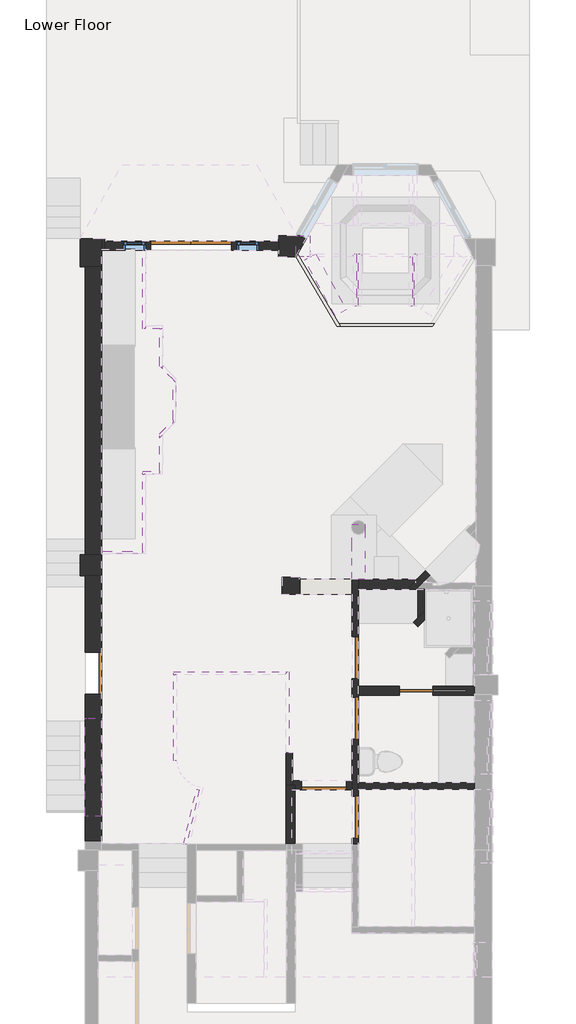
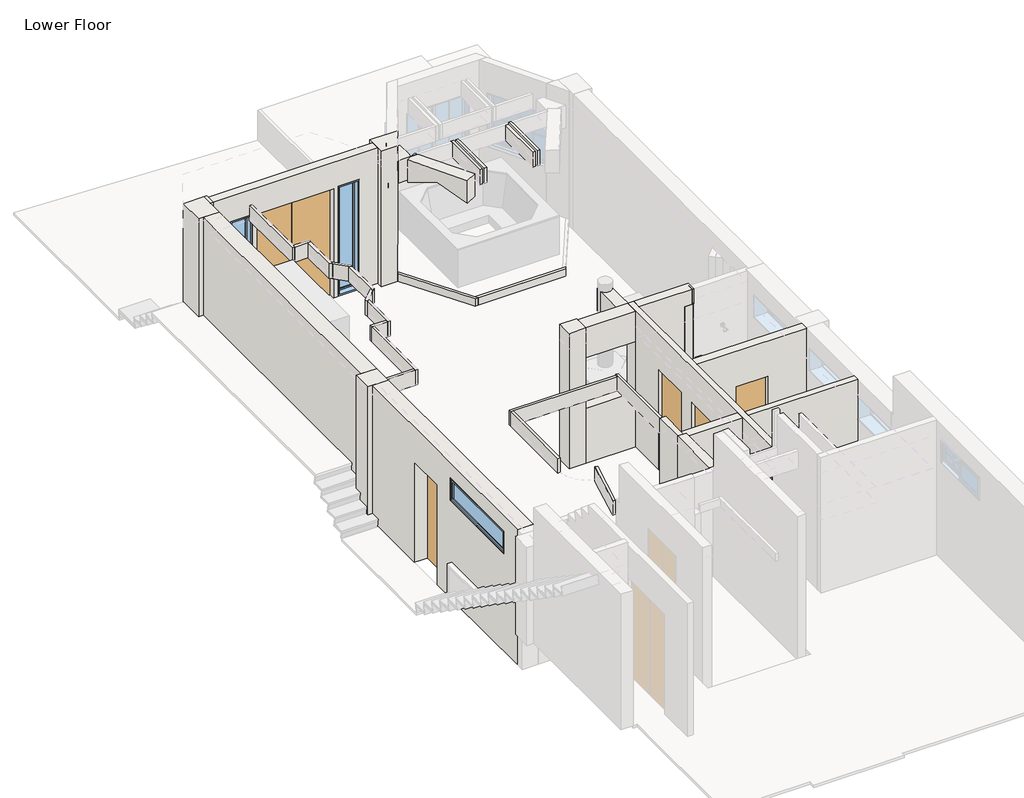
# One storey, part 2 of 4: 43 walls, 7 doors, 3 windows.
"""IFC4 building model written with IfcOpenShell, lengths in millimetres."""

from ifc_helpers import new_model, si_unit, point, frame, frame_2d, origin, place, context, project, spatial, polyline, circle_curve, trimmed, segment, composite_curve, outline, extrude, faceted_brep, transform, mapped, element, save
from ifc_brep_helpers import plane_surface, revolved_surface, advanced_brep
from components import door_e9feb998, door_aa45f35f, door_f61abd0f, door_85798bfe, door_2963ea5e, door_bacc9d13, default_1_3eb0f4f5, default_1_2c6ce71a

model = new_model("IFC4")

# Units and contexts
model_context = context("Model", 3, world=origin())
ifc_project = project(units=[si_unit("LENGTHUNIT", "METRE", prefix="MILLI")], contexts=[model_context])

# Site, building, storey
site = spatial("IfcSite", under=ifc_project)
building = spatial("IfcBuilding", under=site)
storey = spatial("IfcBuildingStorey", under=building, Name="Lower Floor", Elevation=-2743.2)

# Doors
placement = place(None, origin())
door_shape = door_e9feb998(model_context)
element("IfcDoor", 1, ObjectType="Planitar - Single Pocket Door : 2'-0\" x 6'-8\"", at=placement, inside=storey, context=model_context, shape_type="MappedRepresentation", body=[
    mapped(door_shape, transform((-101.6, 6419.85, -2743.2), x_axis=(1.0, 0.0, 0.0), y_axis=(0.0, 1.0, 0.0), z_axis=(0.0, 0.0, 1.0))),
])
door_2_shape = door_aa45f35f(model_context)
element("IfcDoor", 2, ObjectType="Planitar - Single Door_Flush Panel : 2'-6\" x 6'-8\"", at=placement, inside=storey, context=model_context, shape_type="MappedRepresentation", body=[
    mapped(door_2_shape, transform((-1206.5, 7021.5125, -2743.2), x_axis=(0.0, -1.0, 0.0), y_axis=(1.0, 0.0, 0.0), z_axis=(0.0, 0.0, 1.0))),
])
door_3_shape = door_f61abd0f(model_context)
element("IfcDoor", 3, ObjectType="Planitar - Single Door_Flush Panel : 2'-6\" x 6'-8\"", at=placement, inside=storey, context=model_context, shape_type="MappedRepresentation", body=[
    mapped(door_3_shape, transform((-1206.5, 5924.55, -2743.2), x_axis=(0.0, 1.0, 0.0), y_axis=(-1.0, 0.0, 0.0), z_axis=(0.0, 0.0, 1.0))),
])
element("IfcDoor", 4, ObjectType="Planitar - Single Door_Flush Panel : 2'-6\" x 6'-8\"", at=placement, inside=storey, context=model_context, shape_type="MappedRepresentation", body=[
    mapped(door_3_shape, transform((-1206.5, 4129.88125, -2743.2), x_axis=(0.0, 1.0, 0.0), y_axis=(-1.0, 0.0, 0.0), z_axis=(0.0, 0.0, 1.0))),
])
door_4_shape = door_85798bfe(model_context)
element("IfcDoor", 5, ObjectType="Planitar - Single Door_Flush Panel : 2'-6\" x 6'-8\"", at=placement, inside=storey, context=model_context, shape_type="MappedRepresentation", body=[
    mapped(door_4_shape, transform((-5962.65, 6735.7625, -2743.2), x_axis=(0.0, 1.0, 0.0), y_axis=(-1.0, 0.0, 0.0), z_axis=(0.0, 0.0, 1.0))),
])
door_5_shape = door_2963ea5e(model_context)
element("IfcDoor", 6, ObjectType="Planitar - Single Door_Flush Panel : 2'-8\" x 6'-8\"", at=placement, inside=storey, context=model_context, shape_type="MappedRepresentation", body=[
    mapped(door_5_shape, transform((-1777.20625, 4705.35, -2743.2), x_axis=(-1.0, 0.0, 0.0), y_axis=(0.0, -1.0, 0.0), z_axis=(0.0, 0.0, 1.0))),
])
door_6_shape = door_bacc9d13(model_context)
element("IfcDoor", 7, ObjectType="Planitar - Double Door_Flush Panel : 4'-10\" x 6'-8\"", at=placement, inside=storey, context=model_context, shape_type="MappedRepresentation", body=[
    mapped(door_6_shape, transform((-4187.6265625, 14490.7, -2743.2), x_axis=(1.0, 0.0, 0.0), y_axis=(0.0, 1.0, 0.0), z_axis=(0.0, 0.0, 1.0))),
])

# Walls
element("IfcWall", 8, ObjectType="Planitar - Generic 1' - 0\"", at=placement, inside=storey, context=model_context, shape_type="SweptSolid", body=[
    extrude(outline(polyline([(-6115.05, 8890.0), (-6115.05, 14116.05), (-5810.25, 14116.05), (-5810.25, 8890.0), (-6115.05, 8890.0)])), frame((0.0, 0.0, -2743.2), z_axis=(0.0, 0.0, 1.0), x_axis=(1.0, 0.0, 0.0)), (0.0, 0.0, 1.0), 2743.2),
])
element("IfcWall", 9, ObjectType="Planitar - Generic 1' - 3 1/2\"", at=placement, inside=storey, context=model_context, shape_type="Brep", body=[
    faceted_brep([(-5810.25, 14116.05, -2743.2), (-5810.25, 14408.15, -2743.2), (-5810.25, 14624.05, -2743.2), (-5810.25, 14624.05, 0.0), (-5810.25, 14408.15, 0.0), (-5810.25, 14116.05, 0.0), (-6203.95, 14116.05, -2743.2), (-6203.95, 14116.05, 0.0), (-6203.95, 14624.05, 0.0), (-6203.95, 14624.05, -2743.2), (-6115.05, 14116.05, -2743.2), (-6115.05, 14116.05, 0.0)], [[[0, 1, 2, 3, 4, 5]], [[6, 7, 8, 9]], [[2, 1, 0, 10, 6, 9]], [[5, 4, 3, 8, 7, 11]], [[0, 5, 11, 7, 6, 10]], [[3, 2, 9, 8]]]),
])
element("IfcWall", 10, ObjectType="Planitar - Generic 8 1/2\"", at=placement, inside=storey, context=model_context, shape_type="Brep", body=[
    faceted_brep([(-5810.25, 14408.15, -2743.2), (-5753.1, 14408.15, -2743.2), (-5753.1, 14408.15, 0.0), (-5810.25, 14408.15, 0.0), (-5810.25, 14624.05, -2743.2), (-5810.25, 14624.05, 0.0), (-5753.1, 14624.05, 0.0), (-5753.1, 14624.05, -2743.2), (-5753.1, 14573.25, -2743.2), (-5753.1, 14573.25, 0.0)], [[[0, 1, 2, 3]], [[4, 5, 6, 7]], [[1, 0, 4, 7, 8]], [[2, 1, 8, 7, 6, 9]], [[3, 2, 9, 6, 5]], [[0, 3, 5, 4]]]),
])
element("IfcWall", 11, ObjectType="Planitar - Generic 6 1/2\"", at=placement, inside=storey, context=model_context, shape_type="SweptSolid", body=[
    extrude(outline(polyline([(-2743.2, -2603.5), (0.0, -2603.5), (0.0, -5753.1), (-2743.2, -5753.1), (-2743.2, -5419.328125), (-508.0, -5419.328125), (-508.0, -5012.928125), (-2743.2, -5012.928125), (-2743.2, -4924.2265625), (-533.4, -4924.2265625), (-533.4, -3451.0265625), (-2743.2, -3451.0265625), (-2743.2, -3362.325), (-508.0, -3362.325), (-508.0, -2955.925), (-2743.2, -2955.925), (-2743.2, -2603.5)])), frame((0.0, 14408.15, 0.0), z_axis=(0.0, 1.0, 0.0), x_axis=(0.0, 0.0, 1.0)), (0.0, 0.0, 1.0), 165.1),
])
element("IfcWall", 12, ObjectType="Planitar - Generic 1' - 3\"", at=placement, inside=storey, context=model_context, shape_type="Brep", body=[
    faceted_brep([(-2603.5, 14293.85, -2743.2), (-2287.9319, 14293.85, -2743.2), (-2287.9319, 14293.85, -762.0), (-2281.3741204, 14293.85, -762.0), (-2281.3741204, 14293.85, -304.8), (-2287.9319, 14293.85, -304.8), (-2287.9319, 14293.85, 0.0), (-2603.5, 14293.85, 0.0), (-2069.9799429, 14674.85, -2743.2), (-2274.8163408, 14674.85, -2743.2), (-2603.5, 14674.85, -2743.2), (-2603.5, 14674.85, 0.0), (-2274.8163408, 14674.85, 0.0), (-2069.9799429, 14674.85, 0.0), (-2069.9799429, 14674.85, -304.8), (-2281.3741204, 14674.85, -304.8), (-2281.3741204, 14674.85, -762.0), (-2208.9758677, 14674.85, -762.0), (-2208.9758677, 14674.85, -1701.8), (-2069.9799429, 14674.85, -1701.8), (-2603.5, 14408.15, -2743.2), (-2603.5, 14573.25, -2743.2), (-2258.9508339, 14344.5115602, -2743.2), (-2603.5, 14573.25, 0.0), (-2603.5, 14408.15, 0.0), (-2104.2506382, 14614.9416831, -1701.8), (-2104.2506382, 14614.9416831, -762.0), (-2281.3741204, 14305.3135999, -762.0), (-2281.3741204, 14305.3135999, -304.8)], [[[0, 1, 2, 3, 4, 5, 6, 7]], [[8, 9, 10, 11, 12, 13, 14, 15, 16, 17, 18, 19]], [[1, 0, 20, 21, 10, 9, 8, 22]], [[7, 6, 13, 12, 11, 23, 24]], [[0, 7, 24, 23, 11, 10, 21, 20]], [[18, 25, 19]], [[25, 18, 17, 26]], [[16, 27, 26, 17]], [[27, 16, 15, 28, 4, 3]], [[28, 15, 14]], [[2, 1, 22, 8, 19, 25, 26, 27]], [[6, 5, 28, 14, 13]], [[3, 2, 27]], [[5, 4, 28]]]),
])
element("IfcWall", 13, ObjectType="Planitar - Generic 4 1/2\"", at=placement, inside=storey, context=model_context, shape_type="SweptSolid", body=[
    extrude(outline(polyline([(952.5, 4635.5), (-1149.35, 4635.5), (-1149.35, 4749.8), (952.5, 4749.8), (952.5, 4635.5)])), frame((0.0, 0.0, -2743.2), z_axis=(0.0, 0.0, 1.0), x_axis=(1.0, 0.0, 0.0)), (0.0, 0.0, 1.0), 2743.2),
])
element("IfcWall", 14, ObjectType="Planitar - Generic 4 1/2\"", at=placement, inside=storey, context=model_context, shape_type="Brep", body=[
    faceted_brep([(-2463.8, 5295.9, -2743.2), (-2463.8, 4705.35, -2743.2), (-2463.8, 4705.35, 0.0), (-2463.8, 5295.9, 0.0), (-2463.8, 5295.9, -304.8), (-2349.5, 5295.9, -2743.2), (-2349.5, 5295.9, 0.0), (-2349.5, 4787.9, 0.0), (-2349.5, 4705.35, 0.0), (-2349.5, 4705.35, -2743.2), (-2349.5, 4787.9, -2743.2), (-2413.0, 5295.9, 0.0)], [[[0, 1, 2, 3, 4]], [[5, 6, 7, 8, 9, 10]], [[1, 0, 5, 10, 9]], [[2, 1, 9, 8]], [[3, 2, 8, 7, 6, 11]], [[0, 4, 3, 11, 6, 5]]]),
])
element("IfcWall", 15, ObjectType="Planitar - Generic 6 1/2\"", at=placement, inside=storey, context=model_context, shape_type="Brep", body=[
    faceted_brep([(-2463.8, 4705.35, -2743.2), (-2463.8, 3644.9, -2743.2), (-2463.8, 3644.9, 0.0), (-2463.8, 4705.35, 0.0), (-2298.7, 4705.35, -2743.2), (-2298.7, 4705.35, 0.0), (-2298.7, 4622.8, 0.0), (-2298.7, 3644.9, 0.0), (-2298.7, 3644.9, -2743.2), (-2298.7, 4622.8, -2743.2), (-2349.5, 4705.35, -2743.2), (-2413.0, 3644.9, -2743.2), (-2457.45, 3644.9, 0.0), (-2349.5, 4705.35, 0.0)], [[[0, 1, 2, 3]], [[4, 5, 6, 7, 8, 9]], [[1, 0, 10, 4, 9, 8, 11]], [[3, 2, 12, 7, 6, 5, 13]], [[0, 3, 13, 5, 4, 10]], [[2, 1, 11, 8, 7, 12]]]),
])
element("IfcWall", 16, ObjectType="Planitar - Generic 6 1/2\"", at=placement, inside=storey, context=model_context, shape_type="Brep", body=[
    faceted_brep([(-2298.7, 4622.8, -2743.2), (-2183.60625, 4622.8, -2743.2), (-2183.60625, 4622.8, -711.2), (-1370.80625, 4622.8, -711.2), (-1370.80625, 4622.8, -2743.2), (-1263.65, 4622.8, -2743.2), (-1263.65, 4622.8, 0.0), (-2298.7, 4622.8, 0.0), (-2183.60625, 4787.9, -711.2), (-2183.60625, 4787.9, -2743.2), (-2349.5, 4787.9, -2743.2), (-2349.5, 4787.9, 0.0), (-1263.65, 4787.9, 0.0), (-1263.65, 4787.9, -2743.2), (-1370.80625, 4787.9, -2743.2), (-1370.80625, 4787.9, -711.2), (-2298.7, 4705.35, -2743.2), (-2349.5, 4705.35, -2743.2), (-2349.5, 4705.35, 0.0), (-2298.7, 4705.35, 0.0)], [[[0, 1, 2, 3, 4, 5, 6, 7]], [[8, 9, 10, 11, 12, 13, 14, 15]], [[14, 13, 5, 4]], [[10, 9, 1, 0, 16, 17]], [[7, 6, 12, 11, 18, 19]], [[0, 7, 19, 16]], [[19, 18, 17, 16]], [[18, 11, 10, 17]], [[6, 5, 13, 12]], [[2, 1, 9, 8]], [[3, 2, 8, 15]], [[4, 3, 15, 14]]]),
])
element("IfcWall", 17, ObjectType="Planitar - Generic 6 1/2\"", at=placement, inside=storey, context=model_context, shape_type="Brep", body=[
    faceted_brep([(952.5, 6337.3, 0.0), (-1149.35, 6337.3, 0.0), (-1149.35, 6337.3, -2743.2), (-406.4, 6337.3, -2743.2), (-406.4, 6337.3, -711.2), (203.2, 6337.3, -711.2), (203.2, 6337.3, -2743.2), (952.5, 6337.3, -2743.2), (-1149.35, 6502.4, 0.0), (927.1, 6502.4, 0.0), (952.5, 6502.4, 0.0), (952.5, 6502.4, -2743.2), (927.1, 6502.4, -2743.2), (203.2, 6502.4, -2743.2), (203.2, 6502.4, -711.2), (-406.4, 6502.4, -711.2), (-406.4, 6502.4, -2743.2), (-1149.35, 6502.4, -2743.2), (952.5, 6350.0, -2743.2), (203.2, 6399.175, -2743.2), (812.8, 6399.175, -2743.2), (812.8, 6440.525, -2743.2), (203.2, 6440.525, -2743.2), (952.5, 6350.0, 0.0), (812.8, 6440.525, -711.2), (812.8, 6399.175, -711.2), (203.2, 6399.175, -711.2), (203.2, 6440.525, -711.2)], [[[0, 1, 2, 3, 4, 5, 6, 7]], [[8, 9, 10, 11, 12, 13, 14, 15, 16, 17]], [[2, 17, 16, 3]], [[11, 18, 7, 6, 19, 20, 21, 22, 13, 12]], [[1, 0, 23, 10, 9, 8]], [[2, 1, 8, 17]], [[0, 7, 18, 11, 10, 23]], [[24, 25, 26, 5, 4, 15, 14, 27]], [[24, 27, 22, 21]], [[27, 14, 13, 22]], [[15, 4, 3, 16]], [[5, 26, 19, 6]], [[26, 25, 20, 19]], [[25, 24, 21, 20]]]),
])
element("IfcWall", 18, ObjectType="Planitar - Generic 7\"", at=placement, inside=storey, context=model_context, shape_type="Brep", body=[
    faceted_brep([(-91.9815, 8439.15, -2743.2), (-1149.35, 8439.15, -2743.2), (-1149.35, 8439.15, 0.0), (-100.0591949, 8439.15, 0.0), (-100.0591949, 8439.15, -304.8), (-91.9815, 8439.15, -304.8), (-269.7815, 8261.35, -2743.2), (-269.7815, 8261.35, -304.8), (-108.1368898, 8261.35, -304.8), (-100.0591949, 8261.35, -304.8), (-100.0591949, 8261.35, 0.0), (-1149.35, 8261.35, 0.0), (-1149.35, 8261.35, -2743.2), (-100.0591949, 8431.0723051, -304.8)], [[[0, 1, 2, 3, 4, 5]], [[6, 7, 8, 9, 10, 11, 12]], [[1, 0, 6, 12]], [[3, 2, 11, 10]], [[1, 12, 11, 2]], [[4, 3, 10, 9, 13]], [[4, 13, 5]], [[0, 5, 13, 7, 6]], [[13, 9, 8, 7]]]),
])
element("IfcWall", 19, ObjectType="Planitar - Generic 1' - 0\"", at=placement, inside=storey, context=model_context, shape_type="Brep", body=[
    faceted_brep([(-2540.0, 8172.45, -2743.2), (-2216.15, 8172.45, -2743.2), (-2216.15, 8172.45, 0.0), (-2540.0, 8172.45, 0.0), (-2540.0, 8477.25, -2743.2), (-2540.0, 8477.25, 0.0), (-2216.15, 8477.25, 0.0), (-2216.15, 8477.25, -2743.2), (-2216.15, 8439.15, -2743.2), (-2216.15, 8439.15, 0.0)], [[[0, 1, 2, 3]], [[4, 5, 6, 7]], [[1, 0, 4, 7, 8]], [[2, 1, 8, 7, 6, 9]], [[3, 2, 9, 6, 5]], [[0, 3, 5, 4]]]),
])
element("IfcWall", 20, ObjectType="Planitar - Generic 10 1/2\"", at=placement, inside=storey, context=model_context, shape_type="SweptSolid", body=[
    extrude(outline(polyline([(-2743.2, -2216.15), (-2743.2, -1263.65), (0.0, -1263.65), (0.0, -2216.15), (-2743.2, -2216.15)]), holes=[polyline([(-609.6, -1270.0), (-1625.6, -1270.0), (-1625.6, -2209.8), (-609.6, -2209.8), (-609.6, -1270.0)])]), frame((0.0, 8172.45, 0.0), z_axis=(0.0, 1.0, 0.0), x_axis=(0.0, 0.0, 1.0)), (0.0, 0.0, 1.0), 266.7),
])
element("IfcWall", 21, ObjectType="Planitar - Generic 1' - 3 1/2\"", at=placement, inside=storey, context=model_context, shape_type="Brep", body=[
    faceted_brep([(-6203.95, 8890.0, 0.0), (-6203.95, 8890.0, -2743.2), (-6203.95, 8502.65, -2743.2), (-6203.95, 8502.65, 0.0), (-5810.25, 8890.0, -2743.2), (-5810.25, 8890.0, 0.0), (-5810.25, 8502.65, 0.0), (-5810.25, 8502.65, -2743.2), (-6115.05, 8890.0, -2743.2), (-6115.05, 8502.65, -2743.2), (-6115.05, 8502.65, 0.0), (-6115.05, 8890.0, 0.0)], [[[0, 1, 2, 3]], [[4, 5, 6, 7]], [[2, 1, 8, 4, 7, 9]], [[3, 2, 9, 7, 6, 10]], [[0, 3, 10, 6, 5, 11]], [[0, 11, 5, 4, 8, 1]]]),
])
element("IfcWall", 22, ObjectType="Planitar - Generic 1' - 0\"", at=placement, inside=storey, context=model_context, shape_type="Brep", body=[
    faceted_brep([(-6115.05, 8502.65, -2743.2), (-6115.05, 7116.7625, -2743.2), (-6115.05, 7116.7625, -711.2), (-6115.05, 6354.7625, -711.2), (-6115.05, 6354.7625, -2743.2), (-6115.05, 5867.4, -2743.2), (-6115.05, 5816.6, -2743.2), (-6115.05, 3689.35, -2743.2), (-6115.05, 3689.35, 0.0), (-6115.05, 8502.65, 0.0), (-6115.05, 4140.2, -762.0), (-6115.05, 5918.2, -762.0), (-6115.05, 5918.2, -304.8), (-6115.05, 4140.2, -304.8), (-5810.25, 7116.7625, -711.2), (-5810.25, 7116.7625, -2743.2), (-5810.25, 8502.65, -2743.2), (-5810.25, 8502.65, 0.0), (-5810.25, 3689.35, 0.0), (-5810.25, 3689.35, -2743.2), (-5810.25, 6354.7625, -2743.2), (-5810.25, 6354.7625, -711.2), (-5810.25, 4140.2, -762.0), (-5810.25, 4140.2, -304.8), (-5810.25, 5918.2, -304.8), (-5810.25, 5918.2, -762.0)], [[[0, 1, 2, 3, 4, 5, 6, 7, 8, 9], [10, 11, 12, 13]], [[14, 15, 16, 17, 18, 19, 20, 21], [22, 23, 24, 25]], [[20, 19, 7, 6, 5, 4]], [[16, 15, 1, 0]], [[8, 7, 19, 18]], [[9, 8, 18, 17]], [[0, 9, 17, 16]], [[2, 1, 15, 14]], [[3, 2, 14, 21]], [[4, 3, 21, 20]], [[23, 22, 10, 13]], [[24, 23, 13, 12]], [[25, 24, 12, 11]], [[22, 25, 11, 10]]]),
])
element("IfcWall", 23, ObjectType="Planitar - Generic 4 1/2\"", at=placement, inside=storey, context=model_context, shape_type="Brep", body=[
    faceted_brep([(-1149.35, 4510.88125, -711.2), (-1149.35, 4510.88125, -2743.2), (-1149.35, 4635.5, -2743.2), (-1149.35, 4749.8, -2743.2), (-1149.35, 5543.55, -2743.2), (-1149.35, 5543.55, -711.2), (-1149.35, 6305.55, -711.2), (-1149.35, 6305.55, -2743.2), (-1149.35, 6337.3, -2743.2), (-1149.35, 6502.4, -2743.2), (-1149.35, 6640.5125, -2743.2), (-1149.35, 6640.5125, -711.2), (-1149.35, 7402.5125, -711.2), (-1149.35, 7402.5125, -2743.2), (-1149.35, 8261.35, -2743.2), (-1149.35, 8439.15, -2743.2), (-1149.35, 8439.15, 0.0), (-1149.35, 8261.35, 0.0), (-1149.35, 6502.4, 0.0), (-1149.35, 6337.3, 0.0), (-1149.35, 4749.8, 0.0), (-1149.35, 4635.5, 0.0), (-1149.35, 3632.2, 0.0), (-1149.35, 3632.2, -2743.2), (-1149.35, 3748.88125, -2743.2), (-1149.35, 3748.88125, -711.2), (-1263.65, 5543.55, -2743.2), (-1263.65, 4787.9, -2743.2), (-1263.65, 4622.8, -2743.2), (-1263.65, 4510.88125, -2743.2), (-1263.65, 4510.88125, -711.2), (-1263.65, 3748.88125, -711.2), (-1263.65, 3748.88125, -2743.2), (-1263.65, 3632.2, -2743.2), (-1263.65, 3632.2, 0.0), (-1263.65, 4622.8, 0.0), (-1263.65, 4787.9, 0.0), (-1263.65, 8172.45, 0.0), (-1263.65, 8439.15, 0.0), (-1263.65, 8439.15, -304.8), (-1263.65, 8439.15, -670.1454155), (-1263.65, 8439.15, -2743.2), (-1263.65, 8172.45, -2743.2), (-1263.65, 7402.5125, -2743.2), (-1263.65, 7402.5125, -711.2), (-1263.65, 6640.5125, -711.2), (-1263.65, 6640.5125, -2743.2), (-1263.65, 6305.55, -2743.2), (-1263.65, 6305.55, -711.2), (-1263.65, 5543.55, -711.2)], [[[0, 1, 2, 3, 4, 5, 6, 7, 8, 9, 10, 11, 12, 13, 14, 15, 16, 17, 18, 19, 20, 21, 22, 23, 24, 25]], [[26, 27, 28, 29, 30, 31, 32, 33, 34, 35, 36, 37, 38, 39, 40, 41, 42, 43, 44, 45, 46, 47, 48, 49]], [[43, 42, 41, 15, 14, 13]], [[10, 9, 8, 7, 47, 46]], [[24, 23, 33, 32]], [[4, 3, 2, 1, 29, 28, 27, 26]], [[22, 21, 20, 19, 18, 17, 16, 38, 37, 36, 35, 34]], [[23, 22, 34, 33]], [[11, 10, 46, 45]], [[12, 11, 45, 44]], [[13, 12, 44, 43]], [[48, 47, 7, 6]], [[49, 48, 6, 5]], [[26, 49, 5, 4]], [[30, 29, 1, 0]], [[31, 30, 0, 25]], [[32, 31, 25, 24]], [[15, 41, 40, 39, 38, 16]]]),
])
element("IfcWall", 24, ObjectType="Planitar - Generic 2\"", at=placement, inside=storey, context=model_context, shape_type="Brep", body=[
    faceted_brep([(-2287.9319, 14293.85, -2743.2), (-1536.7, 13030.2, -2743.2), (-1536.7, 13030.2, -2590.8), (-2287.9319, 14293.85, -2590.8), (-2258.9508339, 14344.5115602, -2743.2), (-2258.9508339, 14344.5115602, -2590.8), (-1507.8012355, 13081.0, -2590.8), (-1477.6009581, 13030.2, -2590.8), (-1477.6009581, 13030.2, -2743.2), (-1507.8012355, 13081.0, -2743.2)], [[[0, 1, 2, 3]], [[4, 5, 6, 7, 8, 9]], [[1, 0, 4, 9, 8]], [[3, 2, 7, 6, 5]], [[0, 3, 5, 4]], [[2, 1, 8, 7]]]),
])
element("IfcWall", 25, ObjectType="Planitar - Generic 2\"", at=placement, inside=storey, context=model_context, shape_type="Brep", body=[
    faceted_brep([(-1477.6009581, 13030.2, -2743.2), (196.85, 13030.2, -2743.2), (196.85, 13030.2, -2590.8), (-1477.6009581, 13030.2, -2590.8), (-1507.8012355, 13081.0, -2743.2), (-1507.8012355, 13081.0, -2590.8), (168.7721827, 13081.0, -2590.8), (228.7662304, 13081.0, -2590.8), (228.7662304, 13081.0, -2743.2), (168.7721827, 13081.0, -2743.2)], [[[0, 1, 2, 3]], [[4, 5, 6, 7, 8, 9]], [[1, 0, 4, 9, 8]], [[3, 2, 7, 6, 5]], [[0, 3, 5, 4]], [[2, 1, 8, 7]]]),
])
element("IfcWall", 26, ObjectType="Planitar - Generic 4 1/2\"", at=placement, inside=storey, context=model_context, shape_type="SweptSolid", body=[
    extrude(outline(polyline([(-69.85, 7751.6223), (-69.85, 8261.35), (44.45, 8261.35), (44.45, 7865.9223), (-69.85, 7751.6223)])), frame((0.0, 0.0, -2743.2), z_axis=(0.0, 0.0, 1.0), x_axis=(1.0, 0.0, 0.0)), (0.0, 0.0, 1.0), 1346.2),
])
element("IfcWall", 27, ObjectType="Planitar - Generic 4 1/2\"", at=placement, inside=storey, context=model_context, shape_type="Brep", body=[
    faceted_brep([(44.45, 7865.9223, -2743.2), (-69.85, 7751.6223, -2743.2), (-154.71115, 7666.76115, -2743.2), (-154.71115, 7666.76115, -1397.0), (-69.85, 7751.6223, -1397.0), (44.45, 7865.9223, -1397.0), (44.45, 7704.2776898, -2743.2), (44.45, 7704.2776898, -1397.0), (-73.8888449, 7585.9388449, -1397.0), (-73.8888449, 7585.9388449, -2743.2)], [[[0, 1, 2, 3, 4, 5]], [[6, 7, 8, 9]], [[2, 1, 0, 6, 9]], [[3, 2, 9, 8]], [[5, 4, 3, 8, 7]], [[0, 5, 7, 6]]]),
])
element("IfcWall", 28, ObjectType="Planitar - Generic 2\"", at=placement, inside=storey, context=model_context, shape_type="Brep", body=[
    faceted_brep([(-5063.728125, 14408.15, -609.6), (-5063.728125, 12992.1, -609.6), (-5063.728125, 12992.1, -304.8), (-5063.728125, 14408.15, -304.8), (-5012.928125, 14408.15, -609.6), (-5012.928125, 14408.15, -304.8), (-5012.928125, 13042.9, -304.8), (-5012.928125, 12992.1, -304.8), (-5012.928125, 12992.1, -609.6), (-5012.928125, 13042.9, -609.6)], [[[0, 1, 2, 3]], [[4, 5, 6, 7, 8, 9]], [[1, 0, 4, 9, 8]], [[3, 2, 7, 6, 5]], [[0, 3, 5, 4]], [[2, 1, 8, 7]]]),
])
element("IfcWall", 29, ObjectType="Planitar - Generic 2\"", at=placement, inside=storey, context=model_context, shape_type="Brep", body=[
    faceted_brep([(-5012.928125, 12992.1, -609.6), (-4758.928125, 12992.1, -609.6), (-4708.128125, 12992.1, -609.6), (-4708.128125, 12992.1, -304.8), (-4758.928125, 12992.1, -304.8), (-5012.928125, 12992.1, -304.8), (-5012.928125, 13042.9, -609.6), (-5012.928125, 13042.9, -304.8), (-4708.128125, 13042.9, -304.8), (-4708.128125, 13042.9, -609.6)], [[[0, 1, 2, 3, 4, 5]], [[6, 7, 8, 9]], [[2, 1, 0, 6, 9]], [[5, 4, 3, 8, 7]], [[0, 5, 7, 6]], [[3, 2, 9, 8]]]),
])
element("IfcWall", 30, ObjectType="Planitar - Generic 2\"", at=placement, inside=storey, context=model_context, shape_type="Brep", body=[
    faceted_brep([(-4758.928125, 12992.1, -609.6), (-4758.928125, 12310.657951, -609.6), (-4758.928125, 12310.657951, -304.8), (-4758.928125, 12992.1, -304.8), (-4708.128125, 12992.1, -609.6), (-4708.128125, 12992.1, -304.8), (-4708.128125, 12331.7, -304.8), (-4708.128125, 12259.857951, -304.8), (-4708.128125, 12259.857951, -609.6), (-4708.128125, 12331.7, -609.6)], [[[0, 1, 2, 3]], [[4, 5, 6, 7, 8, 9]], [[1, 0, 4, 9, 8]], [[3, 2, 7, 6, 5]], [[0, 3, 5, 4]], [[2, 1, 8, 7]]]),
])
element("IfcWall", 31, ObjectType="Planitar - Generic 2\"", at=placement, inside=storey, context=model_context, shape_type="Brep", body=[
    faceted_brep([(-4708.128125, 12259.857951, -609.6), (-4518.3532883, 12070.0831143, -609.6), (-4467.5532883, 12019.2831143, -609.6), (-4467.5532883, 12019.2831143, -304.8), (-4518.3532883, 12070.0831143, -304.8), (-4708.128125, 12259.857951, -304.8), (-4708.128125, 12331.7, -609.6), (-4708.128125, 12331.7, -304.8), (-4467.5532883, 12091.1251633, -304.8), (-4467.5532883, 12091.1251633, -609.6)], [[[0, 1, 2, 3, 4, 5]], [[6, 7, 8, 9]], [[2, 1, 0, 6, 9]], [[5, 4, 3, 8, 7]], [[0, 5, 7, 6]], [[3, 2, 9, 8]]]),
])
element("IfcWall", 32, ObjectType="Planitar - Generic 2\"", at=placement, inside=storey, context=model_context, shape_type="Brep", body=[
    faceted_brep([(-4518.3532883, 12070.0831143, -609.6), (-4518.3532883, 11324.7672123, -609.6), (-4518.3532883, 11252.9251633, -609.6), (-4518.3532883, 11252.9251633, -304.8), (-4518.3532883, 11324.7672123, -304.8), (-4518.3532883, 12070.0831143, -304.8), (-4467.5532883, 12019.2831143, -609.6), (-4467.5532883, 12019.2831143, -304.8), (-4467.5532883, 11303.7251633, -304.8), (-4467.5532883, 11303.7251633, -609.6)], [[[0, 1, 2, 3, 4, 5]], [[6, 7, 8, 9]], [[2, 1, 0, 6, 9]], [[5, 4, 3, 8, 7]], [[0, 5, 7, 6]], [[3, 2, 9, 8]]]),
])
element("IfcWall", 33, ObjectType="Planitar - Generic 2\"", at=placement, inside=storey, context=model_context, shape_type="Brep", body=[
    faceted_brep([(-4518.3532883, 11324.7672123, -609.6), (-4758.928125, 11084.1923756, -609.6), (-4758.928125, 11084.1923756, -304.8), (-4518.3532883, 11324.7672123, -304.8), (-4518.3532883, 11252.9251633, -609.6), (-4518.3532883, 11252.9251633, -304.8), (-4708.128125, 11063.1503266, -304.8), (-4758.928125, 11012.3503266, -304.8), (-4758.928125, 11012.3503266, -609.6), (-4708.128125, 11063.1503266, -609.6)], [[[0, 1, 2, 3]], [[4, 5, 6, 7, 8, 9]], [[1, 0, 4, 9, 8]], [[3, 2, 7, 6, 5]], [[0, 3, 5, 4]], [[2, 1, 8, 7]]]),
])
element("IfcWall", 34, ObjectType="Planitar - Generic 2\"", at=placement, inside=storey, context=model_context, shape_type="Brep", body=[
    faceted_brep([(-4758.928125, 11012.3503266, -609.6), (-4758.928125, 10402.7503266, -609.6), (-4758.928125, 10351.9503266, -609.6), (-4758.928125, 10351.9503266, -304.8), (-4758.928125, 10402.7503266, -304.8), (-4758.928125, 11012.3503266, -304.8), (-4708.128125, 11063.1503266, -609.6), (-4708.128125, 11063.1503266, -304.8), (-4708.128125, 10351.9503266, -304.8), (-4708.128125, 10351.9503266, -609.6)], [[[0, 1, 2, 3, 4, 5]], [[6, 7, 8, 9]], [[2, 1, 0, 6, 9]], [[5, 4, 3, 8, 7]], [[0, 5, 7, 6]], [[3, 2, 9, 8]]]),
])
element("IfcWall", 35, ObjectType="Planitar - Generic 2\"", at=placement, inside=storey, context=model_context, shape_type="Brep", body=[
    faceted_brep([(-4758.928125, 10402.7503266, -609.6), (-5063.728125, 10402.7503266, -609.6), (-5063.728125, 10402.7503266, -304.8), (-4758.928125, 10402.7503266, -304.8), (-4758.928125, 10351.9503266, -609.6), (-4758.928125, 10351.9503266, -304.8), (-5012.928125, 10351.9503266, -304.8), (-5063.728125, 10351.9503266, -304.8), (-5063.728125, 10351.9503266, -609.6), (-5012.928125, 10351.9503266, -609.6)], [[[0, 1, 2, 3]], [[4, 5, 6, 7, 8, 9]], [[1, 0, 4, 9, 8]], [[3, 2, 7, 6, 5]], [[0, 3, 5, 4]], [[2, 1, 8, 7]]]),
])
element("IfcWall", 36, ObjectType="Planitar - Generic 2\"", at=placement, inside=storey, context=model_context, shape_type="Brep", body=[
    faceted_brep([(-5063.728125, 10351.9503266, -609.6), (-5063.728125, 8954.9503266, -609.6), (-5063.728125, 8904.1503266, -609.6), (-5063.728125, 8904.1503266, -304.8), (-5063.728125, 8954.9503266, -304.8), (-5063.728125, 10351.9503266, -304.8), (-5012.928125, 10351.9503266, -609.6), (-5012.928125, 10351.9503266, -304.8), (-5012.928125, 8904.1503266, -304.8), (-5012.928125, 8904.1503266, -609.6)], [[[0, 1, 2, 3, 4, 5]], [[6, 7, 8, 9]], [[2, 1, 0, 6, 9]], [[5, 4, 3, 8, 7]], [[0, 5, 7, 6]], [[3, 2, 9, 8]]]),
])
element("IfcWall", 37, ObjectType="Planitar - Generic 2\"", at=placement, inside=storey, context=model_context, shape_type="SweptSolid", body=[
    extrude(outline(polyline([(-5810.25, 8954.9503266), (-5063.728125, 8954.9503266), (-5063.728125, 8904.1503266), (-5810.25, 8904.1503266), (-5810.25, 8954.9503266)])), frame((0.0, 0.0, -609.6), z_axis=(0.0, 0.0, 1.0), x_axis=(1.0, 0.0, 0.0)), (0.0, 0.0, 1.0), 304.8),
])
element("IfcWall", 38, ObjectType="Planitar - Generic 2\"", at=placement, inside=storey, context=model_context, shape_type="Brep", body=[
    faceted_brep([(-2413.0, 5295.9, -304.8), (-2413.0, 6762.75, -304.8), (-2413.0, 6762.75, 0.0), (-2413.0, 5295.9, 0.0), (-2463.8, 5295.9, -304.8), (-2463.8, 5295.9, 0.0), (-2463.8, 6762.75, 0.0), (-2463.8, 6762.75, -12.7), (-2463.8, 6762.75, -304.8), (-2463.8, 6711.95, -304.8)], [[[0, 1, 2, 3]], [[4, 5, 6, 7, 8, 9]], [[1, 0, 4, 9, 8]], [[3, 2, 6, 5]], [[0, 3, 5, 4]], [[2, 1, 8, 7, 6]]]),
])
element("IfcWall", 39, ObjectType="Planitar - Generic 2\"", at=placement, inside=storey, context=model_context, shape_type="Brep", body=[
    faceted_brep([(-2463.8, 6762.75, -304.8), (-4503.0133268, 6762.75, -304.8), (-4503.0133268, 6762.75, -12.7), (-2463.8, 6762.75, -12.7), (-2463.8, 6711.95, -304.8), (-2463.8, 6711.95, -12.7), (-4452.2133268, 6711.95, -12.7), (-4503.0133268, 6711.95, -12.7), (-4503.0133268, 6711.95, -304.8), (-4452.2133268, 6711.95, -304.8)], [[[0, 1, 2, 3]], [[4, 5, 6, 7, 8, 9]], [[1, 0, 4, 9, 8]], [[3, 2, 7, 6, 5]], [[0, 3, 5, 4]], [[2, 1, 8, 7]]]),
])
element("IfcWall", 40, ObjectType="Planitar - Generic 2\"", at=placement, inside=storey, context=model_context, shape_type="SweptSolid", body=[
    extrude(outline(polyline([(-4503.0133268, 5146.3964091), (-4503.0133268, 6711.95), (-4452.2133268, 6711.95), (-4452.2133268, 5148.4920136), (-4503.0133268, 5146.3964091)])), frame((0.0, 0.0, -304.8), z_axis=(0.0, 0.0, 1.0), x_axis=(1.0, 0.0, 0.0)), (0.0, 0.0, 1.0), 292.1),
])
element("IfcWall", 41, ObjectType="Planitar - Generic 2\"", at=placement, inside=storey, context=model_context, shape_type="SweptSolid", body=[
    extrude(outline(composite_curve([segment(polyline([(-4325.4141821, 3632.2), (-4088.4107465, 4636.6017997)]), True, "CONTINUOUS"), segment(trimmed(circle_curve(frame_2d((-3924.8614362, 5193.1021677)), 580.0353751), [point((-4088.4107465, 4636.6017997))], [point((-4039.0888223, 4624.4255102))], True, "CARTESIAN"), True, "CONTINUOUS"), segment(polyline([(-4039.0888223, 4624.4255102), (-4273.2190826, 3632.2), (-4325.4141821, 3632.2)]), True, "CONTINUOUS")], self_intersect=False)), frame((0.0, 0.0, -304.8), z_axis=(0.0, 0.0, 1.0), x_axis=(1.0, 0.0, 0.0)), (0.0, 0.0, 1.0), 292.1),
])
element("IfcWall", 42, ObjectType="Planitar - Generic 9\"", at=placement, inside=storey, context=model_context, shape_type="SweptSolid", body=[
    extrude(outline(composite_curve([segment(polyline([(8439.15, -670.1454155), (8439.15, -304.8), (9442.45, -304.8), (9442.45, -753.9642157)]), True, "CONTINUOUS"), segment(trimmed(circle_curve(frame_2d((8879.0276949, -1451.4611721)), 896.6307479), [point((9442.45, -753.9642157))], [point((8439.15, -670.1454155))], True, "CARTESIAN"), True, "CONTINUOUS")], self_intersect=False)), frame((-1263.65, 0.0, 0.0), z_axis=(1.0, 0.0, 0.0), x_axis=(0.0, 1.0, 0.0)), (0.0, 0.0, 1.0), 228.6),
])
element("IfcWall", 43, ObjectType="Planitar - Generic 1' - 3\"", at=placement, inside=storey, context=model_context, shape_type="Brep", body=[
    faceted_brep([(-2281.3741204, 14293.85, -762.0), (-2139.95, 14293.85, -762.0), (-2027.3741204, 14293.85, -762.0), (-2027.3741204, 14293.85, -609.6), (-2027.3741204, 14293.85, -304.8), (-2139.95, 14293.85, -304.8), (-2281.3741204, 14293.85, -304.8), (-2027.3741204, 14674.85, -304.8), (-2027.3741204, 14674.85, -762.0), (-2069.9799429, 14674.85, -762.0), (-2069.9799429, 14674.85, -609.6), (-2208.9758677, 14674.85, -609.6), (-2208.9758677, 14674.85, -762.0), (-2281.3741204, 14674.85, -762.0), (-2281.3741204, 14674.85, -304.8), (-2069.9799429, 14674.85, -304.8), (-2104.2506382, 14614.9416831, -762.0), (-2027.3741204, 14401.7008402, -762.0), (-2027.3741204, 14401.7008402, -304.8), (-2027.3741204, 14344.65, -304.8), (-2104.2506382, 14614.9416831, -609.6)], [[[0, 1, 2, 3, 4, 5, 6]], [[7, 8, 9, 10, 11, 12, 13, 14, 15]], [[2, 1, 0, 13, 12, 16, 9, 8, 17]], [[4, 3, 2, 17, 8, 7, 18, 19]], [[6, 5, 4, 19, 18, 7, 15, 14]], [[0, 6, 14, 13]], [[16, 20, 10, 9]], [[20, 16, 12, 11]], [[10, 20, 11]]]),
])
element("IfcWall", 44, ObjectType="Planitar - Generic 9\"", at=placement, inside=storey, context=model_context, shape_type="AdvancedBrep", body=[
    advanced_brep(
    [(-2127.3353426, 14238.7166798, -762.0), (-1569.6346502, 13223.0683443, -762.0), (-1569.6346502, 13223.0683443, -304.8), (-2127.3353426, 14238.7166798, -304.8), (-1926.9569638, 14348.7460637, -762.0), (-1926.9569638, 14348.7460637, -304.8), (-1369.2562714, 13333.0977282, -304.8), (-1369.2562714, 13333.0977282, -762.0), (-2026.9301152, 14293.85, -304.8), (-2125.4244173, 14239.7659843, -304.8), (-1936.2265287, 14343.6560709, -762.0), (-2125.4244173, 14239.7659843, -762.0)],
    [
        (0, 1, circle_curve(frame((-1848.4849964, 13730.8925121, -1486.292965), z_axis=(0.8765458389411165, 0.48131838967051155, 0.0), x_axis=(-0.48131838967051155, 0.8765458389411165, 0.0)), 927.492965)),
        (1, 2),
        (2, 3),
        (3, 0),
        (4, 5),
        (5, 6),
        (6, 7),
        (7, 4, circle_curve(frame((-1648.1066176, 13840.9218959, -1486.292965), z_axis=(-0.8765458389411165, -0.48131838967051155, 0.0), x_axis=(-0.48131838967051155, 0.8765458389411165, 0.0)), 927.492965)),
        (1, 7),
        (6, 2),
        (5, 8),
        (8, 9),
        (9, 3),
        (4, 10),
        (10, 11),
        (11, 0),
    ],
    [
        plane_surface(frame((-2294.9044167, 14543.8826112, -1486.292965), z_axis=(-0.8765458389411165, -0.4813183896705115, 0.0), x_axis=(0.0, 0.0, 1.0))),
        plane_surface(frame((-2094.526038, 14653.911995, -1486.292965), z_axis=(0.8765458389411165, 0.4813183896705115, 0.0), x_axis=(0.0, 0.0, -1.0))),
        plane_surface(frame((-1569.6346502, 13223.0683443, -762.0), z_axis=(0.4813183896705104, -0.8765458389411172, 0.0), x_axis=(0.8765458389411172, 0.4813183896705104, 0.0))),
        plane_surface(frame((-1569.6346502, 13223.0683443, -304.8), z_axis=(0.0, 0.0, 1.0000000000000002), x_axis=(0.8765458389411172, 0.4813183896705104, 0.0))),
        plane_surface(frame((-2127.3353426, 14238.7166798, -304.8), z_axis=(-0.4813183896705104, 0.8765458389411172, 0.0), x_axis=(0.8765458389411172, 0.4813183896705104, 0.0))),
        revolved_surface(polyline([(-2094.52603791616, 14653.911995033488, -1486.292965), (-2294.904416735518, 14543.88261113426, -1486.292965)]), (-1648.1066176, 13840.9218959, -1486.292965), (0.8765458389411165, 0.48131838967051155, 0.0)),
    ],
    [
        (0, [[1, 2, 3, 4]]),
        (1, [[5, 6, 7, 8]]),
        (2, [[-2, 9, -7, 10]]),
        (3, [[-3, -10, -6, 11, 12, 13]]),
        (4, [[-4, -13, -12, -11, -5, 14, 15, 16]]),
        (5, [[-1, -16, -15, -14, -8, -9]]),
    ],
),
])
element("IfcWall", 45, ObjectType="Planitar - Generic 2\"", at=placement, inside=storey, context=model_context, shape_type="Brep", body=[
    faceted_brep([(-1187.5518, 13392.15, -609.6), (-1187.5518, 14344.65, -609.6), (-1187.5518, 14344.65, -304.8), (-1187.5518, 13392.15, -304.8), (-1238.3518, 13392.15, -609.6), (-1238.3518, 13392.15, -304.8), (-1238.3518, 14293.85, -304.8), (-1238.3518, 14344.65, -304.8), (-1238.3518, 14344.65, -609.6), (-1238.3518, 14293.85, -609.6)], [[[0, 1, 2, 3]], [[4, 5, 6, 7, 8, 9]], [[1, 0, 4, 9, 8]], [[3, 2, 7, 6, 5]], [[0, 3, 5, 4]], [[2, 1, 8, 7]]]),
])
element("IfcWall", 46, ObjectType="Planitar - Generic 2\"", at=placement, inside=storey, context=model_context, shape_type="Brep", body=[
    faceted_brep([(-1098.6518, 13392.15, -609.6), (-1098.6518, 14293.85, -609.6), (-1098.6518, 14344.65, -609.6), (-1098.6518, 14344.65, -304.8), (-1098.6518, 14293.85, -304.8), (-1098.6518, 13392.15, -304.8), (-1149.4518, 13392.15, -609.6), (-1149.4518, 13392.15, -304.8), (-1149.4518, 14344.65, -304.8), (-1149.4518, 14344.65, -609.6)], [[[0, 1, 2, 3, 4, 5]], [[6, 7, 8, 9]], [[2, 1, 0, 6, 9]], [[5, 4, 3, 8, 7]], [[0, 5, 7, 6]], [[3, 2, 9, 8]]]),
])
element("IfcWall", 47, ObjectType="Planitar - Generic 2\"", at=placement, inside=storey, context=model_context, shape_type="SweptSolid", body=[
    extrude(outline(polyline([(-224.825268, 13392.15), (-224.825268, 14293.85), (-174.025268, 14293.85), (-174.025268, 13392.15), (-224.825268, 13392.15)])), frame((0.0, 0.0, -609.6), z_axis=(0.0, 0.0, 1.0), x_axis=(1.0, 0.0, 0.0)), (0.0, 0.0, 1.0), 304.8),
])
element("IfcWall", 48, ObjectType="Planitar - Generic 2\"", at=placement, inside=storey, context=model_context, shape_type="Brep", body=[
    faceted_brep([(-85.125268, 13392.15, -609.6), (-85.125268, 14293.85, -609.6), (-85.125268, 14344.65, -609.6), (-85.125268, 14344.65, -304.8), (-85.125268, 14293.85, -304.8), (-85.125268, 13392.15, -304.8), (-135.925268, 13392.15, -609.6), (-135.925268, 13392.15, -304.8), (-135.925268, 14344.65, -304.8), (-135.925268, 14344.65, -609.6)], [[[0, 1, 2, 3, 4, 5]], [[6, 7, 8, 9]], [[2, 1, 0, 6, 9]], [[5, 4, 3, 8, 7]], [[0, 5, 7, 6]], [[3, 2, 9, 8]]]),
])
element("IfcWall", 49, ObjectType="Planitar - Generic 4 1/2\"", at=placement, inside=storey, context=model_context, shape_type="Brep", body=[
    faceted_brep([(-108.1368898, 8261.35, -304.8), (-108.1368898, 8261.35, -2743.2), (6.1631102, 8375.65, -2743.2), (64.2704, 8433.7572898, -2743.2), (145.0927051, 8514.5795949, -2743.2), (145.0927051, 8514.5795949, -304.8), (64.2704, 8433.7572898, -304.8), (6.1631102, 8375.65, -304.8), (-269.7815, 8261.35, -2743.2), (-269.7815, 8261.35, -304.8), (-91.9815, 8439.15, -304.8), (64.2704, 8595.4019, -304.8), (64.2704, 8595.4019, -2743.2), (-91.9815, 8439.15, -2743.2), (-131.8091949, 8261.35, -304.8)], [[[0, 1, 2, 3, 4, 5, 6, 7]], [[8, 9, 10, 11, 12, 13]], [[4, 3, 2, 1, 8, 13, 12]], [[0, 7, 6, 5, 11, 10, 9, 14]], [[0, 14, 9, 8, 1]], [[5, 4, 12, 11]]]),
])
element("IfcWall", 50, ObjectType="Planitar - Generic 2\"", at=placement, inside=storey, context=model_context, shape_type="SweptSolid", body=[
    extrude(outline(polyline([(14617.7, -2743.2), (14617.7, -2183.6), (14793.6808307, -2183.6), (14768.6808307, -2336.0), (14990.5308307, -2336.0), (14965.5308307, -2488.4), (15187.3808307, -2488.4), (15162.3808307, -2640.8), (15695.3808307, -2640.8), (15678.5829304, -2743.2), (14617.7, -2743.2)])), frame((-6254.75, 0.0, 0.0), z_axis=(1.0, 0.0, 0.0), x_axis=(0.0, 1.0, 0.0)), (0.0, 0.0, 1.0), 50.8),
])

# Windows
default_1_shape = default_1_3eb0f4f5(model_context)
element("IfcWindow", 51, ObjectType="Planitar-Fixed : Default 1", at=placement, inside=storey, context=model_context, shape_type="MappedRepresentation", body=[
    mapped(default_1_shape, transform((-5216.128125, 14477.7, -3657.6), x_axis=(1.0, 0.0, 0.0), y_axis=(0.0, 1.0, 0.0), z_axis=(0.0, 0.0, 1.0))),
])
element("IfcWindow", 52, ObjectType="Planitar-Fixed : Default 1", at=placement, inside=storey, context=model_context, shape_type="MappedRepresentation", body=[
    mapped(default_1_shape, transform((-3159.125, 14477.7, -3657.6), x_axis=(1.0, 0.0, 0.0), y_axis=(0.0, 1.0, 0.0), z_axis=(0.0, 0.0, 1.0))),
])
default_1_2_shape = default_1_2c6ce71a(model_context)
element("IfcWindow", 53, ObjectType="Planitar-Fixed : Default 1", at=placement, inside=storey, context=model_context, shape_type="MappedRepresentation", body=[
    mapped(default_1_2_shape, transform((-5949.65, 5029.2, -1676.4), x_axis=(0.0, 1.0, 0.0), y_axis=(-1.0, 0.0, 0.0), z_axis=(0.0, 0.0, 1.0))),
])

save(model, "model.ifc")
